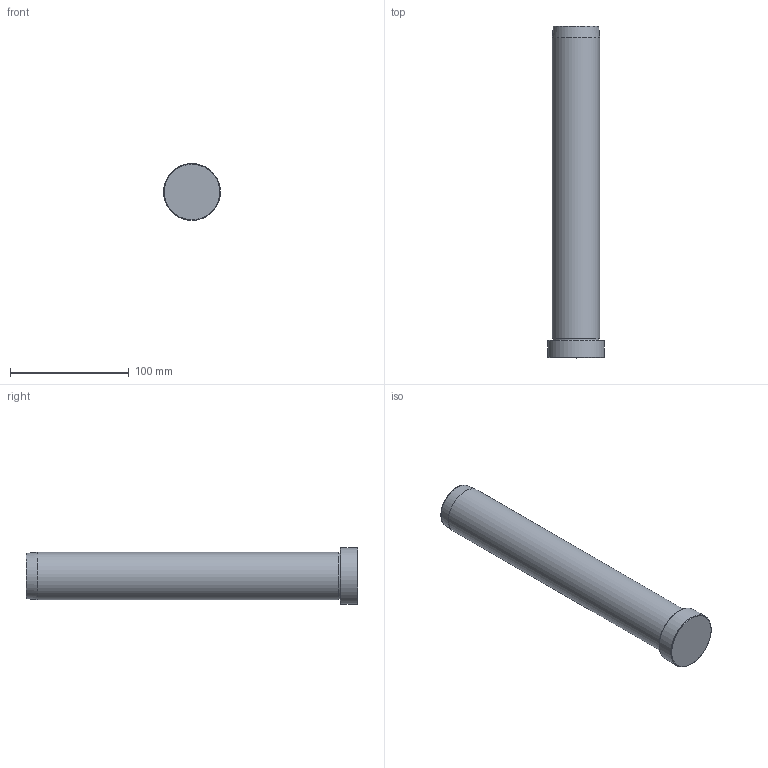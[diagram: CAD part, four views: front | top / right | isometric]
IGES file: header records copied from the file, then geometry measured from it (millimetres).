
Start section: Missler Software BP 521, 31674 Labege Cedex, France Tel   : +33 (0)5 61 00 03 00 Fax   : +33 (0)5 61 00 03 03 Email : sup.topsolid@topsolid.com
Global section: file name: D:\Cuma\24 03 2009\D01D\D01D_40X280.igs; native system: TopSolid v605250 Missler Software; preprocessor: IGES preprocessor v100000; date: 030101.001931; units: millimetre
Bounding box: 47.98 x 280 x 48 mm (x, y, z)
Surface area: 39071 mm2 (no closed solid volume)
Topology: 0 solids, 0 shells, 11 faces, 216 edges, 210 vertices
Faces by surface type: bspline 11
